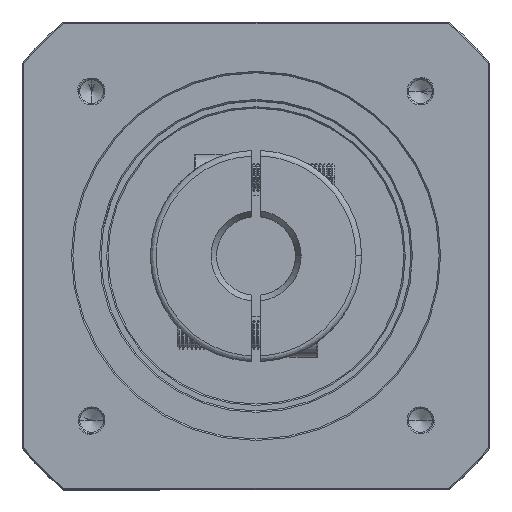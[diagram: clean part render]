
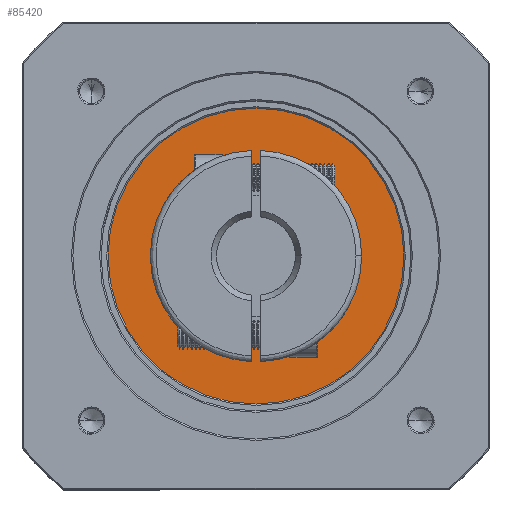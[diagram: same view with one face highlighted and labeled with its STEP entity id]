
A CAD part, top view. The second image highlights one B-rep face of the part: STEP entity #85420.
In plain terms, the highlighted planar face has unit normal (0, 0, 1).
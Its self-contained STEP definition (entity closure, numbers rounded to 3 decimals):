
#421 = CARTESIAN_POINT ( 'NONE',  ( -2.452, -0.589, 313.95 ) ) ;
#2235 = CARTESIAN_POINT ( 'NONE',  ( -2.452, -0.589, 313.95 ) ) ;
#4109 = DIRECTION ( 'NONE',  ( 0., 0., -1. ) ) ;
#5632 = VERTEX_POINT ( 'NONE', #122962 ) ;
#6560 = ORIENTED_EDGE ( 'NONE', *, *, #7814, .F. ) ;
#7814 = EDGE_CURVE ( 'NONE', #56543, #5632, #112939, .T. ) ;
#9204 = EDGE_LOOP ( 'NONE', ( #6560, #84875 ) ) ;
#9270 = DIRECTION ( 'NONE',  ( 0., 0., -1. ) ) ;
#10220 = PLANE ( 'NONE',  #134214 ) ;
#12958 = CIRCLE ( 'NONE', #107444, 30.5 ) ;
#13530 = DIRECTION ( 'NONE',  ( 0., 0., -1. ) ) ;
#24729 = CARTESIAN_POINT ( 'NONE',  ( -2.452, -0.589, 313.95 ) ) ;
#28046 = DIRECTION ( 'NONE',  ( -1., 0., 0. ) ) ;
#33184 = AXIS2_PLACEMENT_3D ( 'NONE', #421, #86404, #107073 ) ;
#34135 = DIRECTION ( 'NONE',  ( 0., 1., 0. ) ) ;
#48405 = EDGE_CURVE ( 'NONE', #126049, #117004, #76399, .T. ) ;
#50617 = CARTESIAN_POINT ( 'NONE',  ( -2.452, 29.911, 313.95 ) ) ;
#56543 = VERTEX_POINT ( 'NONE', #67789 ) ;
#57482 = CARTESIAN_POINT ( 'NONE',  ( -2.452, -0.589, 313.95 ) ) ;
#67789 = CARTESIAN_POINT ( 'NONE',  ( -54.952, -0.589, 313.95 ) ) ;
#69332 = EDGE_CURVE ( 'NONE', #117004, #126049, #12958, .T. ) ;
#73913 = EDGE_LOOP ( 'NONE', ( #135203, #103978 ) ) ;
#76399 = CIRCLE ( 'NONE', #116680, 30.5 ) ;
#79877 = FACE_OUTER_BOUND ( 'NONE', #9204, .T. ) ;
#84875 = ORIENTED_EDGE ( 'NONE', *, *, #137199, .F. ) ;
#85420 = ADVANCED_FACE ( 'NONE', ( #96679, #79877 ), #10220, .F. ) ;
#86404 = DIRECTION ( 'NONE',  ( 0., 0., -1. ) ) ;
#88176 = DIRECTION ( 'NONE',  ( 0., 1., 0. ) ) ;
#90120 = DIRECTION ( 'NONE',  ( -1., 0., 0. ) ) ;
#91353 = AXIS2_PLACEMENT_3D ( 'NONE', #57482, #4109, #90120 ) ;
#96679 = FACE_BOUND ( 'NONE', #73913, .T. ) ;
#103978 = ORIENTED_EDGE ( 'NONE', *, *, #69332, .T. ) ;
#107073 = DIRECTION ( 'NONE',  ( -1., 0., 0. ) ) ;
#107444 = AXIS2_PLACEMENT_3D ( 'NONE', #2235, #13530, #34135 ) ;
#112939 = CIRCLE ( 'NONE', #33184, 52.5 ) ;
#113589 = CARTESIAN_POINT ( 'NONE',  ( -2.452, -0.589, 313.95 ) ) ;
#116680 = AXIS2_PLACEMENT_3D ( 'NONE', #24729, #119648, #88176 ) ;
#117004 = VERTEX_POINT ( 'NONE', #134426 ) ;
#119648 = DIRECTION ( 'NONE',  ( 0., 0., -1. ) ) ;
#122962 = CARTESIAN_POINT ( 'NONE',  ( 50.048, -0.589, 313.95 ) ) ;
#124785 = CIRCLE ( 'NONE', #91353, 52.5 ) ;
#126049 = VERTEX_POINT ( 'NONE', #50617 ) ;
#134214 = AXIS2_PLACEMENT_3D ( 'NONE', #113589, #9270, #28046 ) ;
#134426 = CARTESIAN_POINT ( 'NONE',  ( -2.452, -31.089, 313.95 ) ) ;
#135203 = ORIENTED_EDGE ( 'NONE', *, *, #48405, .T. ) ;
#137199 = EDGE_CURVE ( 'NONE', #5632, #56543, #124785, .T. ) ;
